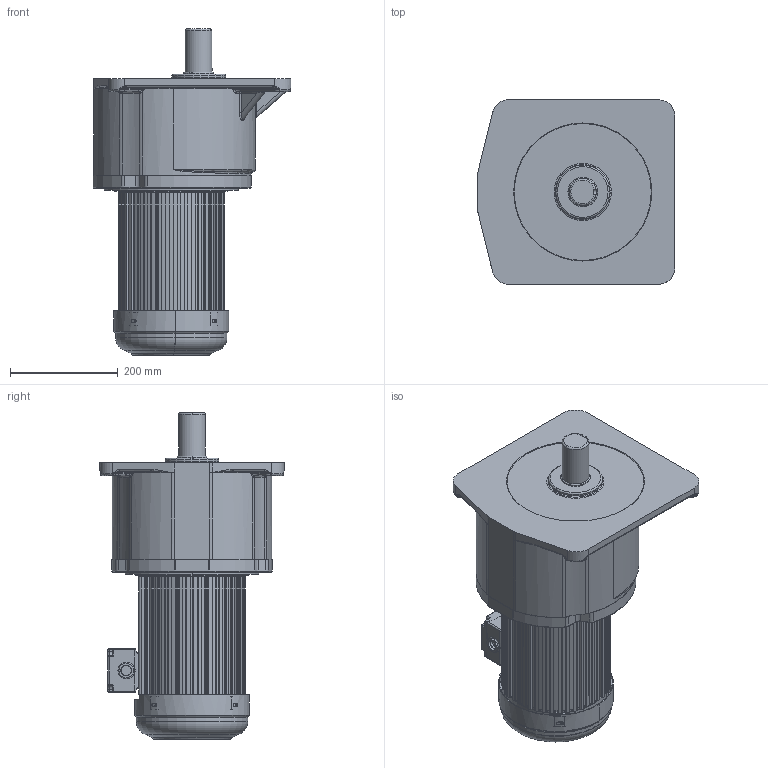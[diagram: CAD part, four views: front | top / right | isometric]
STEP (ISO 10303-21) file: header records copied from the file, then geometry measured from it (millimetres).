
FILE_DESCRIPTION(('HOOPS Exchange Step'),'2;1');
FILE_NAME('C:/ModelConvertServices/TZT.New3D001/output/48558563-8004-46bf-a169-5832ca6f472f/GV50-3700-□-S-G1-LB.step','2026-07-29T08:50:40+08:00',('SYSTEM'),('Unknown organisation'),'HOOPS Exchange 2024.3','HOOPS Exchange','Unknown authorisation');
FILE_SCHEMA( ('AP203_CONFIGURATION_CONTROLLED_3D_DESIGN_OF_MECHANICAL_PARTS_AND_ASSEMBLIES_MIM_LF') );
Length unit declared in the file: millimetre
Products named in the file (1): AdmiE513rs8q
Bounding box: 367 x 342 x 604.5 mm (x, y, z)
Volume: 20683836 mm3; surface area: 1310856.7 mm2
Topology: 1 solids, 8 shells, 2160 faces, 5892 edges, 3704 vertices
Faces by surface type: plane 984, cylinder 769, torus 224, bspline 101, sphere 60, cone 22
Full cylindrical faces by diameter (mm): 50 x1, 55 x1, 66 x2, 180.5 x1, 246 x1
Entity records: 76840 total; most frequent: CARTESIAN_POINT 21795, ORIENTED_EDGE 11632, DIRECTION 11393, EDGE_CURVE 5816, AXIS2_PLACEMENT_3D 3960, VERTEX_POINT 3704, VECTOR 3473, LINE 3473
